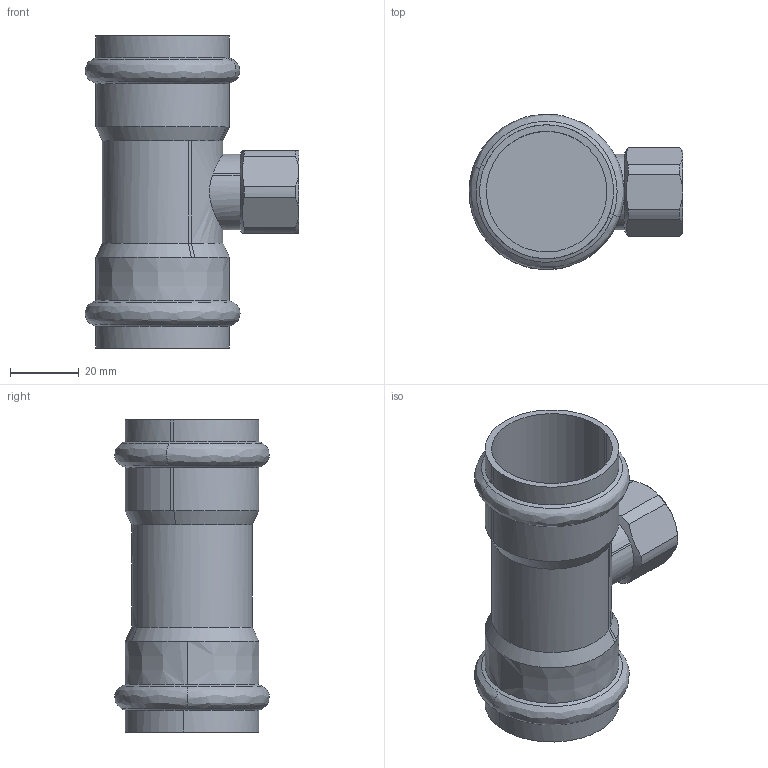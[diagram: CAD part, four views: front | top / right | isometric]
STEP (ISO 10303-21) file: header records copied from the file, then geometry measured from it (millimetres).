
FILE_DESCRIPTION(('STEP AP214'),'1');
FILE_NAME('pim0003174.stp','2015-03-19T14:42:47',('CAD-PIM'),('TransMagic, Inc.'),'TMR11sp0','TransMagic R11',' ');
FILE_SCHEMA(('AUTOMOTIVE_DESIGN'));
Length unit declared in the file: millimetre
Products named in the file (1): pim0003174
Bounding box: 61.95 x 44.83 x 90.5 mm (x, y, z)
Volume: 59797 mm3; surface area: 22620.4 mm2
Topology: 1 solids, 1 shells, 76 faces, 198 edges, 128 vertices
Faces by surface type: bspline 76
Entity records: 4286 total; most frequent: CARTESIAN_POINT 2577, ORIENTED_EDGE 396, EDGE_CURVE 198, VERTEX_POINT 128, B_SPLINE_CURVE_WITH_KNOTS 90, EDGE_LOOP 80, STYLED_ITEM 77, PRESENTATION_STYLE_ASSIGNMENT 77
